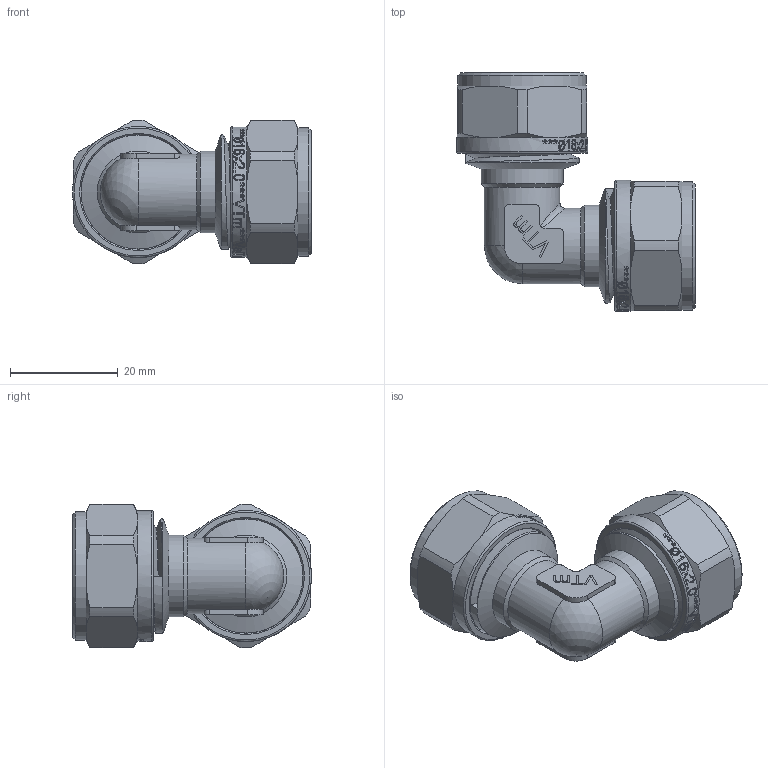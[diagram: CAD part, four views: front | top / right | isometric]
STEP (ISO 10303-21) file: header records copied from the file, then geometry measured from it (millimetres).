
FILE_DESCRIPTION(/* description */ (''),/* implementation_level */ '2;1');
FILE_NAME(/* name */ 'F:\Артём\00000\Работа удаленка\Обжимные фитинги\VTm.351.N.001616.stp',/* time_stamp */ '2020-08-06T13:11:59+03:00',/* author */ ('almis'),/* organization */ (''),/* preprocessor_version */ 'ST-DEVELOPER v18',/* originating_system */ 'Autodesk Inventor 2020',/* authorisation */ '');
FILE_SCHEMA (('AUTOMOTIVE_DESIGN { 1 0 10303 214 3 1 1 }'));
Length unit declared in the file: millimetre
Products named in the file (1): VTm.301.N.001604
Bounding box: 44.34 x 44.34 x 26.72 mm (x, y, z)
Volume: 12943.3 mm3; surface area: 12505.5 mm2
Topology: 1 solids, 1 shells, 1387 faces, 3891 edges, 2614 vertices
Faces by surface type: bspline 701, plane 430, cylinder 160, torus 50, cone 44, sphere 2
Full cylindrical faces by diameter (mm): 8.2 x2, 9.6 x4, 11.95 x8, 14 x2, 15.2 x2, 16.324 x8, 16.4 x2, 16.924 x10, 17.324 x2, 17.6 x4, 18.924 x2, 21.2 x6, 23.824 x2, 24.324 x2
Entity records: 56772 total; most frequent: CARTESIAN_POINT 25326, ORIENTED_EDGE 7778, DIRECTION 4422, EDGE_CURVE 3889, VERTEX_POINT 2614, LINE 1716, VECTOR 1716, EDGE_LOOP 1507
